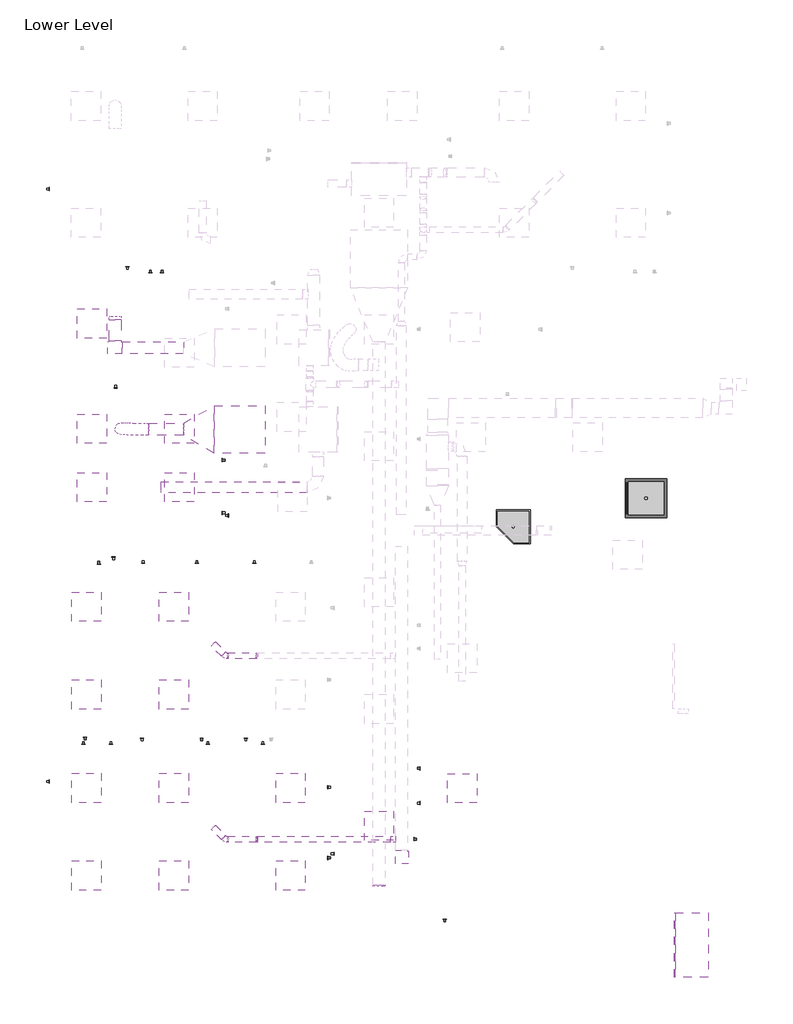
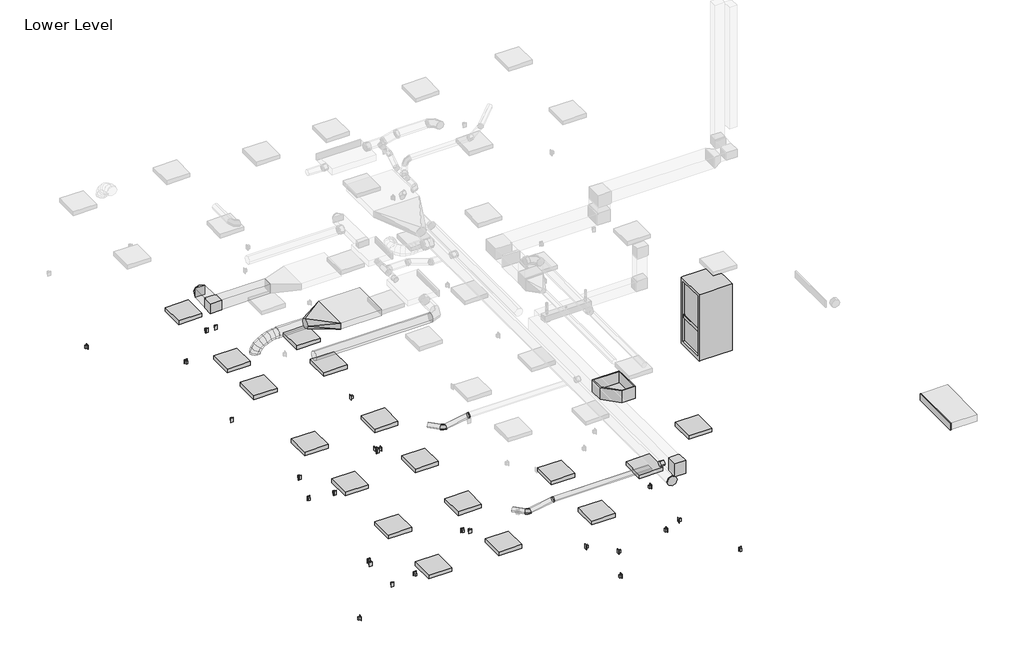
# One storey, part 1 of 4: 23 proxies, 17 light fixtures, 12 duct segments, 11 duct fittings, 6 switching devices, 2 flow terminals.
"""IFC4 building model written with IfcOpenShell, lengths in millimetres."""

from ifc_helpers import new_model, si_unit, point, frame, frame_2d, origin, place, context, project, spatial, polyline, circle_curve, ellipse_curve, trimmed, segment, composite_curve, outline, extrude, transform, mapped, element, save
from ifc_brep_helpers import plane_surface, cylinder_surface, advanced_brep
from components import duplex_receptacle_countertop_10251bba, rectangular_elbow_mitered_standard_7281579c, rectangular_endcap_standard_3ad2bc23, rectangular_tee_standard_e1dfbba3, rectangular_to_round_transition_angle_45_degree_c2b93fa6, rectangular_to_round_transition_angle_60_degree_fd6f6933, round_elbow_1_d_3b39a11e, round_elbow_1_d_92ecc58d, round_endcap_standard_477732a8, round_takeoff_standard_7fe2b2d5, flow_terminal_b3365f74, flow_terminal_3fd0b982, troffer_corner_insert_2x2_3lamp_e67c7f8f

model = new_model("IFC4")

# Units and contexts
model_context = context("Model", 3, world=origin())
ifc_project = project(units=[si_unit("LENGTHUNIT", "METRE", prefix="MILLI")], contexts=[model_context])

# Site, building, storey
site = spatial("IfcSite", under=ifc_project)
building = spatial("IfcBuilding", under=site)
storey = spatial("IfcBuildingStorey", under=building, Name="Lower Level", Elevation=29972.0)

# Proxies
placement = place(None, origin())
duplex_receptacle_countertop_shape = duplex_receptacle_countertop_10251bba(model_context)
element("IfcBuildingElementProxy", 1, Name="Duplex Receptacle : Countertop", ObjectType="Duplex Receptacle : Countertop", at=placement, inside=storey, context=model_context, shape_type="MappedRepresentation", body=[
    mapped(duplex_receptacle_countertop_shape, transform((-19781.0834068, -33.9304995, 31191.2), x_axis=(1.0, 0.0, 0.0), y_axis=(0.0, 0.0, 1.0), z_axis=(0.0, -1.0, 0.0))),
])
element("IfcBuildingElementProxy", 2, Name="Duplex Receptacle : Countertop", ObjectType="Duplex Receptacle : Countertop", at=placement, inside=storey, context=model_context, shape_type="MappedRepresentation", body=[
    mapped(duplex_receptacle_countertop_shape, transform((-17180.480491, -33.9304995, 31191.2), x_axis=(1.0, 0.0, 0.0), y_axis=(0.0, 0.0, 1.0), z_axis=(0.0, -1.0, 0.0))),
])
element("IfcBuildingElementProxy", 3, Name="Duplex Receptacle : Countertop", ObjectType="Duplex Receptacle : Countertop", at=placement, inside=storey, context=model_context, shape_type="MappedRepresentation", body=[
    mapped(duplex_receptacle_countertop_shape, transform((-17312.5285453, 89.8945005, 31191.2), x_axis=(-1.0, 0.0, 0.0), y_axis=(0.0, 0.0, 1.0), z_axis=(0.0, 1.0, 0.0))),
])
element("IfcBuildingElementProxy", 4, Name="Duplex Receptacle : Countertop", ObjectType="Duplex Receptacle : Countertop", at=placement, inside=storey, context=model_context, shape_type="MappedRepresentation", body=[
    mapped(duplex_receptacle_countertop_shape, transform((-19748.0248951, 108.9445005, 31191.2), x_axis=(-1.0, 0.0, 0.0), y_axis=(0.0, 0.0, 1.0), z_axis=(0.0, 1.0, 0.0))),
])
element("IfcBuildingElementProxy", 5, Name="Duplex Receptacle : Countertop", ObjectType="Duplex Receptacle : Countertop", at=placement, inside=storey, context=model_context, shape_type="MappedRepresentation", body=[
    mapped(duplex_receptacle_countertop_shape, transform((-19461.5177943, 3728.4445005, 31191.2), x_axis=(1.0, 0.0, 0.0), y_axis=(0.0, 0.0, 1.0), z_axis=(0.0, -1.0, 0.0))),
])
element("IfcBuildingElementProxy", 6, Name="Duplex Receptacle : Countertop", ObjectType="Duplex Receptacle : Countertop", at=placement, inside=storey, context=model_context, shape_type="MappedRepresentation", body=[
    mapped(duplex_receptacle_countertop_shape, transform((-17411.8900725, 3747.4945005, 31191.2), x_axis=(1.0, 0.0, 0.0), y_axis=(0.0, 0.0, 1.0), z_axis=(0.0, -1.0, 0.0))),
])
element("IfcBuildingElementProxy", 7, Name="Duplex Receptacle : GFCI", ObjectType="Duplex Receptacle : GFCI", at=placement, inside=storey, context=model_context, shape_type="MappedRepresentation", body=[
    mapped(duplex_receptacle_countertop_shape, transform((-18382.2954607, 9811.7445005, 31191.2), x_axis=(1.0, 0.0, 0.0), y_axis=(0.0, 0.0, 1.0), z_axis=(0.0, -1.0, 0.0))),
])
element("IfcBuildingElementProxy", 8, Name="Duplex Receptacle : Standard", ObjectType="Duplex Receptacle : Standard", at=placement, inside=storey, context=model_context, shape_type="MappedRepresentation", body=[
    mapped(duplex_receptacle_countertop_shape, transform((-12749.8454607, -1263.9483179, 30429.2), x_axis=(0.0, 1.0, 0.0), y_axis=(0.0, 0.0, 1.0), z_axis=(1.0, 0.0, 0.0))),
])
element("IfcBuildingElementProxy", 9, Name="Duplex Receptacle : Standard", ObjectType="Duplex Receptacle : Standard", at=placement, inside=storey, context=model_context, shape_type="MappedRepresentation", body=[
    mapped(duplex_receptacle_countertop_shape, transform((-20500.0204607, -814.4593573, 30429.2), x_axis=(0.0, 1.0, 0.0), y_axis=(0.0, 0.0, 1.0), z_axis=(1.0, 0.0, 0.0))),
])
element("IfcBuildingElementProxy", 10, Name="Duplex Receptacle : Standard", ObjectType="Duplex Receptacle : Standard", at=placement, inside=storey, context=model_context, shape_type="MappedRepresentation", body=[
    mapped(duplex_receptacle_countertop_shape, transform((-14673.8954607, -933.3632015, 30429.2), x_axis=(0.0, -1.0, 0.0), y_axis=(0.0, 0.0, 1.0), z_axis=(-1.0, 0.0, 0.0))),
])
element("IfcBuildingElementProxy", 11, Name="Duplex Receptacle : Standard", ObjectType="Duplex Receptacle : Standard", at=placement, inside=storey, context=model_context, shape_type="MappedRepresentation", body=[
    mapped(duplex_receptacle_countertop_shape, transform((-19208.069205, -33.9304995, 30429.2), x_axis=(1.0, 0.0, 0.0), y_axis=(0.0, 0.0, 1.0), z_axis=(0.0, -1.0, 0.0))),
])
element("IfcBuildingElementProxy", 12, Name="Duplex Receptacle : Standard", ObjectType="Duplex Receptacle : Standard", at=placement, inside=storey, context=model_context, shape_type="MappedRepresentation", body=[
    mapped(duplex_receptacle_countertop_shape, transform((-16034.4520874, -33.9304995, 30429.2), x_axis=(1.0, 0.0, 0.0), y_axis=(0.0, 0.0, 1.0), z_axis=(0.0, -1.0, 0.0))),
])
element("IfcBuildingElementProxy", 13, Name="Duplex Receptacle : Standard", ObjectType="Duplex Receptacle : Standard", at=placement, inside=storey, context=model_context, shape_type="MappedRepresentation", body=[
    mapped(duplex_receptacle_countertop_shape, transform((-18535.8794683, 3747.4945005, 30429.2), x_axis=(1.0, 0.0, 0.0), y_axis=(0.0, 0.0, 1.0), z_axis=(0.0, -1.0, 0.0))),
])
element("IfcBuildingElementProxy", 14, Name="Duplex Receptacle : Standard", ObjectType="Duplex Receptacle : Standard", at=placement, inside=storey, context=model_context, shape_type="MappedRepresentation", body=[
    mapped(duplex_receptacle_countertop_shape, transform((-16210.7641495, 3747.4945005, 30429.2), x_axis=(1.0, 0.0, 0.0), y_axis=(0.0, 0.0, 1.0), z_axis=(0.0, -1.0, 0.0))),
])
element("IfcBuildingElementProxy", 15, Name="Duplex Receptacle : Standard", ObjectType="Duplex Receptacle : Standard", at=placement, inside=storey, context=model_context, shape_type="MappedRepresentation", body=[
    mapped(duplex_receptacle_countertop_shape, transform((-18557.7324838, 89.8945005, 30429.2), x_axis=(-1.0, 0.0, 0.0), y_axis=(0.0, 0.0, 1.0), z_axis=(0.0, 1.0, 0.0))),
])
element("IfcBuildingElementProxy", 16, Name="Duplex Receptacle : Standard", ObjectType="Duplex Receptacle : Standard", at=placement, inside=storey, context=model_context, shape_type="MappedRepresentation", body=[
    mapped(duplex_receptacle_countertop_shape, transform((-16386.8902194, 89.8945005, 30429.2), x_axis=(-1.0, 0.0, 0.0), y_axis=(0.0, 0.0, 1.0), z_axis=(0.0, 1.0, 0.0))),
])
element("IfcBuildingElementProxy", 17, Name="Duplex Receptacle : Standard", ObjectType="Duplex Receptacle : Standard", at=placement, inside=storey, context=model_context, shape_type="MappedRepresentation", body=[
    mapped(duplex_receptacle_countertop_shape, transform((-16880.5204607, 4796.7788164, 30429.2), x_axis=(0.0, -1.0, 0.0), y_axis=(0.0, 0.0, 1.0), z_axis=(-1.0, 0.0, 0.0))),
])
element("IfcBuildingElementProxy", 18, Name="Duplex Receptacle : Standard", ObjectType="Duplex Receptacle : Standard", at=placement, inside=storey, context=model_context, shape_type="MappedRepresentation", body=[
    mapped(duplex_receptacle_countertop_shape, transform((-19152.7856934, 3871.3195005, 30429.2), x_axis=(-1.0, 0.0, 0.0), y_axis=(0.0, 0.0, 1.0), z_axis=(0.0, 1.0, 0.0))),
])
element("IfcBuildingElementProxy", 19, Name="Duplex Receptacle : Standard", ObjectType="Duplex Receptacle : Standard", at=placement, inside=storey, context=model_context, shape_type="MappedRepresentation", body=[
    mapped(duplex_receptacle_countertop_shape, transform((-19108.7076778, 7408.2695005, 30429.2), x_axis=(1.0, 0.0, 0.0), y_axis=(0.0, 0.0, 1.0), z_axis=(0.0, -1.0, 0.0))),
])
element("IfcBuildingElementProxy", 20, Name="Duplex Receptacle : Standard", ObjectType="Duplex Receptacle : Standard", at=placement, inside=storey, context=model_context, shape_type="MappedRepresentation", body=[
    mapped(duplex_receptacle_countertop_shape, transform((-16756.6954607, 4741.681297, 30429.2), x_axis=(0.0, 1.0, 0.0), y_axis=(0.0, 0.0, 1.0), z_axis=(1.0, 0.0, 0.0))),
])
element("IfcBuildingElementProxy", 21, Name="Duplex Receptacle : Standard", ObjectType="Duplex Receptacle : Standard", at=placement, inside=storey, context=model_context, shape_type="MappedRepresentation", body=[
    mapped(duplex_receptacle_countertop_shape, transform((-20500.0204607, 11561.2553968, 30429.2), x_axis=(0.0, 1.0, 0.0), y_axis=(0.0, 0.0, 1.0), z_axis=(1.0, 0.0, 0.0))),
])
element("IfcBuildingElementProxy", 22, Name="Duplex Receptacle : Standard", ObjectType="Duplex Receptacle : Standard", at=placement, inside=storey, context=model_context, shape_type="MappedRepresentation", body=[
    mapped(duplex_receptacle_countertop_shape, transform((-18861.9549075, 9935.5695005, 30429.2), x_axis=(-1.0, 0.0, 0.0), y_axis=(0.0, 0.0, 1.0), z_axis=(0.0, 1.0, 0.0))),
])
element("IfcBuildingElementProxy", 23, Name="Duplex Receptacle : Standard", ObjectType="Duplex Receptacle : Standard", at=placement, inside=storey, context=model_context, shape_type="MappedRepresentation", body=[
    mapped(duplex_receptacle_countertop_shape, transform((-14550.0704607, -2323.3194927, 30429.2), x_axis=(0.0, 1.0, 0.0), y_axis=(0.0, 0.0, 1.0), z_axis=(1.0, 0.0, 0.0))),
])

# Duct fittings
rectangular_elbow_mitered_standard_shape = rectangular_elbow_mitered_standard_7281579c(model_context)
element("IfcDuctFitting", 24, ObjectType="Rectangular Elbow - Mitered : Standard", at=placement, inside=storey, context=model_context, shape_type="MappedRepresentation", body=[
    mapped(rectangular_elbow_mitered_standard_shape, transform((-13138.544811, -2399.3054995, 33020.0), x_axis=(0.0, -1.0, 0.0), y_axis=(1.0, 0.0, 0.0), z_axis=(0.0, 0.0, 1.0))),
])
rectangular_endcap_standard_shape = rectangular_endcap_standard_3ad2bc23(model_context)
element("IfcDuctFitting", 25, ObjectType="Rectangular Endcap : Standard", at=placement, inside=storey, context=model_context, shape_type="MappedRepresentation", body=[
    mapped(rectangular_endcap_standard_shape, transform((-7413.4450089, -4228.1054995, 33617.69375), x_axis=(-1.0, 0.0, 0.0), y_axis=(0.0, -1.0, 0.0), z_axis=(0.0, 0.0, 1.0))),
])
rectangular_tee_standard_shape = rectangular_tee_standard_e1dfbba3(model_context)
element("IfcDuctFitting", 26, ObjectType="Rectangular Tee : Standard", at=placement, inside=storey, context=model_context, shape_type="MappedRepresentation", body=[
    mapped(rectangular_tee_standard_shape, transform((-19120.4829607, 8243.4520797, 33126.0036612), x_axis=(-0.9999999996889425, 0.0, 2.4942236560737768e-05), y_axis=(0.0, -1.0000000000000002, 0.0), z_axis=(2.4942236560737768e-05, 0.0, 0.9999999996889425))),
])
rectangular_to_round_transition_angle_45_degree_shape = rectangular_to_round_transition_angle_45_degree_c2b93fa6(model_context)
element("IfcDuctFitting", 27, ObjectType="Rectangular to Round Transition - Angle : 45 Degree", at=placement, inside=storey, context=model_context, shape_type="MappedRepresentation", body=[
    mapped(rectangular_to_round_transition_angle_45_degree_shape, transform((-19120.4829607, 8834.9338087, 33126.0036612), x_axis=(0.0, 1.0, 0.0), y_axis=(-1.0, 0.0, 0.0), z_axis=(0.0, 0.0, 1.0))),
])
rectangular_to_round_transition_angle_60_degree_shape = rectangular_to_round_transition_angle_60_degree_fd6f6933(model_context)
element("IfcDuctFitting", 28, ObjectType="Rectangular to Round Transition - Angle : 60 Degree", at=placement, inside=storey, context=model_context, shape_type="MappedRepresentation", body=[
    mapped(rectangular_to_round_transition_angle_60_degree_shape, transform((-17051.2248289, 6541.2842307, 33125.9381059), x_axis=(-0.9999999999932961, 0.0, 3.661651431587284e-06), y_axis=(0.0, -1.0, 0.0), z_axis=(3.661651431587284e-06, 0.0, 0.9999999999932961))),
])
round_elbow_1_d_shape = round_elbow_1_d_3b39a11e(model_context)
element("IfcDuctFitting", 29, ObjectType="Round Elbow : 1 D", at=placement, inside=storey, context=model_context, shape_type="MappedRepresentation", body=[
    mapped(round_elbow_1_d_shape, transform((-16158.3431706, -2023.2439528, 32918.4), x_axis=(-1.0, 0.0, 0.0), y_axis=(0.0, 0.0, -1.0), z_axis=(0.0, -1.0, 0.0))),
])
element("IfcDuctFitting", 30, ObjectType="Round Elbow : 1 D", at=placement, inside=storey, context=model_context, shape_type="MappedRepresentation", body=[
    mapped(round_elbow_1_d_shape, transform((-16158.3431706, 1810.3913908, 32918.4), x_axis=(-1.0, 0.0, 0.0), y_axis=(0.0, 0.0, -1.0), z_axis=(0.0, -1.0, 0.0))),
])
round_elbow_1_d_2_shape = round_elbow_1_d_92ecc58d(model_context)
element("IfcDuctFitting", 31, ObjectType="Round Elbow : 1 D", at=placement, inside=storey, context=model_context, shape_type="MappedRepresentation", body=[
    mapped(round_elbow_1_d_2_shape, transform((-16816.8445074, -2023.2439528, 32809.259375), x_axis=(0.7071067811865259, -0.7071067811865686, -2.8639103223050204e-08), y_axis=(0.6884479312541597, 0.6884479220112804, 0.22820802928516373), z_axis=(-0.1613674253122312, -0.16136746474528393, 0.9736123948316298))),
])
element("IfcDuctFitting", 32, ObjectType="Round Elbow : 1 D", at=placement, inside=storey, context=model_context, shape_type="MappedRepresentation", body=[
    mapped(round_elbow_1_d_2_shape, transform((-16816.8445074, 1810.3913908, 32809.259375), x_axis=(0.7071067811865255, -0.707106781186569, -2.8639103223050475e-08), y_axis=(0.6884479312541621, 0.6884479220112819, 0.22820802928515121), z_axis=(-0.16136742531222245, -0.161367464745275, 0.9736123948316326))),
])
round_endcap_standard_shape = round_endcap_standard_477732a8(model_context)
element("IfcDuctFitting", 33, ObjectType="Round Endcap : Standard", at=placement, inside=storey, context=model_context, shape_type="MappedRepresentation", body=[
    mapped(round_endcap_standard_shape, transform((-13605.5079607, -2974.1916692, 33125.9395828), x_axis=(0.0, -0.9999999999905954, 4.3369790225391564e-06), y_axis=(1.0000000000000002, 0.0, 0.0), z_axis=(0.0, 4.3369790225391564e-06, 0.9999999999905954))),
])
round_takeoff_standard_shape = round_takeoff_standard_7fe2b2d5(model_context)
element("IfcDuctFitting", 34, ObjectType="Round Takeoff : Standard", at=placement, inside=storey, context=model_context, shape_type="MappedRepresentation", body=[
    mapped(round_takeoff_standard_shape, transform((-13265.544811, -2023.2439528, 32918.4), x_axis=(-1.0, 0.0, 0.0), y_axis=(0.0, 1.0, 0.0), z_axis=(0.0, 0.0, -1.0))),
])

# Duct segments
element("IfcDuctSegment", 35, ObjectType="Flex - Round", at=placement, inside=storey, context=model_context, shape_type="AdvancedBrep", body=[
    advanced_brep(
    [(-18422.8248284, 6414.2842307, 33125.9381059), (-18422.8228218, 6541.2842307, 32998.9381059), (-18422.8248284, 6668.2842307, 33125.9381059), (-18422.826835, 6541.2842307, 33252.9381059), (-18433.152275, 6414.2842307, 33125.9379427), (-18427.213179, 6541.2842307, 32998.9380365), (-18432.1738135, 6668.2842307, 33125.9379582), (-18438.1129095, 6541.2842307, 33252.9378644), (-18998.2468091, 6427.2342279, 32769.175), (-19122.0307333, 6557.370849, 32769.175), (-18991.8941123, 6681.1547731, 32769.175), (-18868.1101881, 6551.0181521, 32769.175), (-18526.8562618, 6415.0075083, 33117.8823605), (-18506.4861488, 6541.8961189, 32992.1230658), (-18523.77087, 6668.9912454, 33118.0635054), (-18544.140983, 6542.1026349, 33243.8228001), (-18637.0590968, 6416.8674274, 33094.2470375), (-18599.9246736, 6543.4731028, 32972.0832029), (-18632.1256758, 6670.8199749, 33094.8245313), (-18669.260099, 6544.2142995, 33216.9883659), (-18745.4744577, 6419.4025492, 33055.8194408), (-18691.0924105, 6545.6049162, 32939.7689901), (-18739.4042775, 6673.3285154, 33056.7998564), (-18793.7863247, 6547.1261484, 33172.850307), (-18843.9578998, 6422.158337, 33003.3326321), (-18769.8918529, 6547.8099015, 32897.7727808), (-18837.3072758, 6676.068061, 33004.6223956), (-18911.3733226, 6550.4164965, 33110.182247), (-18924.3293294, 6424.6818602, 32937.5333655), (-18826.6789675, 6549.5929182, 32851.2817514), (-18917.57092, 6678.5882, 32938.9113718), (-19015.2212819, 6553.677142, 33025.1629859), (-18978.4517799, 6426.5228686, 32859.1793234), (-18859.8184682, 6550.7201787, 32803.305102), (-18971.8883329, 6680.4358402, 32860.2750791), (-19090.5216446, 6556.2385301, 32916.1493004), (-18998.2468091, 6427.2342279, 32796.2388616), (-18868.1101881, 6551.0181521, 32776.940671), (-18991.8941123, 6681.1547731, 32796.6645143), (-19122.0307333, 6557.370849, 32815.9627049)],
    [
        (0, 1, circle_curve(frame((-18422.8248284, 6541.2842307, 33125.9381059), z_axis=(0.9999999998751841, 0.0, 1.5799743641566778e-05), x_axis=(0.0, -1.0, 0.0)), 127.0)),
        (1, 2, circle_curve(frame((-18422.8248284, 6541.2842307, 33125.9381059), z_axis=(0.9999999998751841, 0.0, 1.5799743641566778e-05), x_axis=(0.0, -1.0, 0.0)), 127.0)),
        (2, 3, circle_curve(frame((-18422.8248284, 6541.2842307, 33125.9381059), z_axis=(0.9999999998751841, 0.0, 1.5799743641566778e-05), x_axis=(0.0, -1.0, 0.0)), 127.0)),
        (3, 0, circle_curve(frame((-18422.8248284, 6541.2842307, 33125.9381059), z_axis=(0.9999999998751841, 0.0, 1.5799743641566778e-05), x_axis=(0.0, -1.0, 0.0)), 127.0)),
        (0, 4),
        (4, 5, ellipse_curve(frame((-18432.6630442, 6541.2842307, 33125.9379505), z_axis=(0.999073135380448, -0.003848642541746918, 0.04287257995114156), x_axis=(0.0430449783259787, 0.08935961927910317, -0.9950688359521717)), 127.1177348, 127.0)),
        (5, 1),
        (5, 6, ellipse_curve(frame((-18432.6630442, 6541.2842307, 33125.9379505), z_axis=(0.999073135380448, -0.003848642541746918, 0.04287257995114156), x_axis=(0.0430449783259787, 0.08935961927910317, -0.9950688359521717)), 127.1177348, 127.0)),
        (6, 2),
        (6, 7, ellipse_curve(frame((-18432.6630442, 6541.2842307, 33125.9379505), z_axis=(0.999073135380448, -0.003848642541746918, 0.04287257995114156), x_axis=(0.0430449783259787, 0.08935961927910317, -0.9950688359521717)), 127.1177348, 127.0)),
        (7, 3),
        (7, 4, ellipse_curve(frame((-18432.6630442, 6541.2842307, 33125.9379505), z_axis=(0.999073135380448, -0.003848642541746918, 0.04287257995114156), x_axis=(0.0430449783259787, 0.08935961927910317, -0.9950688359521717)), 127.1177348, 127.0)),
        (8, 9, circle_curve(frame((-18995.0704607, 6554.1945005, 32769.175), z_axis=(0.0, 0.0, -1.0), x_axis=(-0.02501061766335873, -0.9996871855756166, 0.0)), 127.0)),
        (9, 10, circle_curve(frame((-18995.0704607, 6554.1945005, 32769.175), z_axis=(0.0, 0.0, -1.0), x_axis=(-0.02501061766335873, -0.9996871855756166, 0.0)), 127.0)),
        (10, 11, circle_curve(frame((-18995.0704607, 6554.1945005, 32769.175), z_axis=(0.0, 0.0, -1.0), x_axis=(-0.02501061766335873, -0.9996871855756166, 0.0)), 127.0)),
        (11, 8, circle_curve(frame((-18995.0704607, 6554.1945005, 32769.175), z_axis=(0.0, 0.0, -1.0), x_axis=(-0.02501061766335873, -0.9996871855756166, 0.0)), 127.0)),
        (4, 12),
        (12, 13, ellipse_curve(frame((-18525.3135659, 6541.9993769, 33117.9729329), z_axis=(0.9889199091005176, -0.012118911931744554, 0.14795453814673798), x_axis=(0.1484415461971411, 0.0700677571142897, -0.9864358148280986)), 127.251696, 127.0)),
        (13, 5),
        (13, 14, ellipse_curve(frame((-18525.3135659, 6541.9993769, 33117.9729329), z_axis=(0.9889199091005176, -0.012118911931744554, 0.14795453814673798), x_axis=(0.1484415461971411, 0.0700677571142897, -0.9864358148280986)), 127.251696, 127.0)),
        (14, 6),
        (14, 15, ellipse_curve(frame((-18525.3135659, 6541.9993769, 33117.9729329), z_axis=(0.9889199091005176, -0.012118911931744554, 0.14795453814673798), x_axis=(0.1484415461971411, 0.0700677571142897, -0.9864358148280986)), 127.251696, 127.0)),
        (15, 7),
        (15, 12, ellipse_curve(frame((-18525.3135659, 6541.9993769, 33117.9729329), z_axis=(0.9889199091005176, -0.012118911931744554, 0.14795453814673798), x_axis=(0.1484415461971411, 0.0700677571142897, -0.9864358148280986)), 127.251696, 127.0)),
        (12, 16),
        (16, 17, ellipse_curve(frame((-18634.5923863, 6543.8437011, 33094.5357844), z_axis=(0.9619880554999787, -0.01930756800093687, 0.27240814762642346), x_axis=(0.27300431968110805, 0.042784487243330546, -0.9610609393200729)), 127.2665098, 127.0)),
        (17, 13),
        (17, 18, ellipse_curve(frame((-18634.5923863, 6543.8437011, 33094.5357844), z_axis=(0.9619880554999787, -0.01930756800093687, 0.27240814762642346), x_axis=(0.27300431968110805, 0.042784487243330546, -0.9610609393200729)), 127.2665098, 127.0)),
        (18, 14),
        (18, 19, ellipse_curve(frame((-18634.5923863, 6543.8437011, 33094.5357844), z_axis=(0.9619880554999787, -0.01930756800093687, 0.27240814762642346), x_axis=(0.27300431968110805, 0.042784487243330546, -0.9610609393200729)), 127.2665098, 127.0)),
        (19, 15),
        (19, 16, ellipse_curve(frame((-18634.5923863, 6543.8437011, 33094.5357844), z_axis=(0.9619880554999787, -0.01930756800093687, 0.27240814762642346), x_axis=(0.27300431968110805, 0.042784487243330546, -0.9610609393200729)), 127.2665098, 127.0)),
        (16, 20),
        (20, 21, ellipse_curve(frame((-18742.4393676, 6546.3655323, 33056.3096486), z_axis=(0.9148074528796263, -0.023425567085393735, 0.40321032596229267), x_axis=(0.4036389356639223, 0.0178143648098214, -0.914744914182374)), 127.3533068, 127.0)),
        (21, 17),
        (21, 22, ellipse_curve(frame((-18742.4393676, 6546.3655323, 33056.3096486), z_axis=(0.9148074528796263, -0.023425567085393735, 0.40321032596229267), x_axis=(0.4036389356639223, 0.0178143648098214, -0.914744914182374)), 127.3533068, 127.0)),
        (22, 18),
        (22, 23, ellipse_curve(frame((-18742.4393676, 6546.3655323, 33056.3096486), z_axis=(0.9148074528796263, -0.023425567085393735, 0.40321032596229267), x_axis=(0.4036389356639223, 0.0178143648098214, -0.914744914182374)), 127.3533068, 127.0)),
        (23, 19),
        (23, 20, ellipse_curve(frame((-18742.4393676, 6546.3655323, 33056.3096486), z_axis=(0.9148074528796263, -0.023425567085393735, 0.40321032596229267), x_axis=(0.4036389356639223, 0.0178143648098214, -0.914744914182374)), 127.3533068, 127.0)),
        (20, 24),
        (24, 25, ellipse_curve(frame((-18840.6325878, 6549.113199, 33003.9775139), z_axis=(0.8318846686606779, -0.02460559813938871, 0.5544027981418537), x_axis=(0.5545278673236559, -0.0020352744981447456, -0.8321626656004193)), 127.6142862, 127.0)),
        (25, 21),
        (25, 26, ellipse_curve(frame((-18840.6325878, 6549.113199, 33003.9775139), z_axis=(0.8318846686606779, -0.02460559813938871, 0.5544027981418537), x_axis=(0.5545278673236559, -0.0020352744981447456, -0.8321626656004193)), 127.6142862, 127.0)),
        (26, 22),
        (26, 27, ellipse_curve(frame((-18840.6325878, 6549.113199, 33003.9775139), z_axis=(0.8318846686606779, -0.02460559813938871, 0.5544027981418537), x_axis=(0.5545278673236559, -0.0020352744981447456, -0.8321626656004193)), 127.6142862, 127.0)),
        (27, 23),
        (27, 24, ellipse_curve(frame((-18840.6325878, 6549.113199, 33003.9775139), z_axis=(0.8318846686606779, -0.02460559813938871, 0.5544027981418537), x_axis=(0.5545278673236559, -0.0020352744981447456, -0.8321626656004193)), 127.6142862, 127.0)),
        (24, 28),
        (28, 29, ellipse_curve(frame((-18920.9501247, 6551.6350301, 32938.2223686), z_axis=(0.6775254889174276, -0.022024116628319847, 0.7351694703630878), x_axis=(0.7349668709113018, -0.017752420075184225, -0.6778705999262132)), 128.2571375, 127.0)),
        (29, 25),
        (29, 30, ellipse_curve(frame((-18920.9501247, 6551.6350301, 32938.2223686), z_axis=(0.6775254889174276, -0.022024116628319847, 0.7351694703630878), x_axis=(0.7349668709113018, -0.017752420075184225, -0.6778705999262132)), 128.2571375, 127.0)),
        (30, 26),
        (30, 31, ellipse_curve(frame((-18920.9501247, 6551.6350301, 32938.2223686), z_axis=(0.6775254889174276, -0.022024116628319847, 0.7351694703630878), x_axis=(0.7349668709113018, -0.017752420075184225, -0.6778705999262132)), 128.2571375, 127.0)),
        (31, 27),
        (31, 28, ellipse_curve(frame((-18920.9501247, 6551.6350301, 32938.2223686), z_axis=(0.6775254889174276, -0.022024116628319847, 0.7351694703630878), x_axis=(0.7349668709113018, -0.017752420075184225, -0.6778705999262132)), 128.2571375, 127.0)),
        (28, 32),
        (32, 33, ellipse_curve(frame((-18975.1700564, 6553.4793544, 32859.7272012), z_axis=(0.4390412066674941, -0.015225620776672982, 0.8983379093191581), x_axis=(0.8978827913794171, -0.028613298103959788, -0.43930373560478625)), 128.4409374, 127.0)),
        (33, 29),
        (33, 34, ellipse_curve(frame((-18975.1700564, 6553.4793544, 32859.7272012), z_axis=(0.4390412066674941, -0.015225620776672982, 0.8983379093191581), x_axis=(0.8978827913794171, -0.028613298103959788, -0.43930373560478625)), 128.4409374, 127.0)),
        (34, 30),
        (34, 35, ellipse_curve(frame((-18975.1700564, 6553.4793544, 32859.7272012), z_axis=(0.4390412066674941, -0.015225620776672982, 0.8983379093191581), x_axis=(0.8978827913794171, -0.028613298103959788, -0.43930373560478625)), 128.4409374, 127.0)),
        (35, 31),
        (35, 32, ellipse_curve(frame((-18975.1700564, 6553.4793544, 32859.7272012), z_axis=(0.4390412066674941, -0.015225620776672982, 0.8983379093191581), x_axis=(0.8978827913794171, -0.028613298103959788, -0.43930373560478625)), 128.4409374, 127.0)),
        (32, 36),
        (36, 37, ellipse_curve(frame((-18995.0704607, 6554.1945005, 32796.4516879), z_axis=(0.1517593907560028, -0.005453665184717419, 0.9884024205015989), x_axis=(0.9877648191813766, -0.03549657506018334, -0.15185735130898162)), 128.490175, 127.0)),
        (37, 33),
        (37, 38, ellipse_curve(frame((-18995.0704607, 6554.1945005, 32796.4516879), z_axis=(0.1517593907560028, -0.005453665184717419, 0.9884024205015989), x_axis=(0.9877648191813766, -0.03549657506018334, -0.15185735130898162)), 128.490175, 127.0)),
        (38, 34),
        (38, 39, ellipse_curve(frame((-18995.0704607, 6554.1945005, 32796.4516879), z_axis=(0.1517593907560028, -0.005453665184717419, 0.9884024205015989), x_axis=(0.9877648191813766, -0.03549657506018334, -0.15185735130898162)), 128.490175, 127.0)),
        (39, 35),
        (39, 36, ellipse_curve(frame((-18995.0704607, 6554.1945005, 32796.4516879), z_axis=(0.1517593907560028, -0.005453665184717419, 0.9884024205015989), x_axis=(0.9877648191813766, -0.03549657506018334, -0.15185735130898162)), 128.490175, 127.0)),
        (36, 8),
        (11, 37),
        (10, 38),
        (9, 39),
    ],
    [
        plane_surface(frame((-18422.8228218, 6541.2842307, 32998.9381059), z_axis=(0.9999999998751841, 0.0, 1.5799743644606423e-05), x_axis=(0.0, -1.0, 0.0))),
        cylinder_surface(frame((-18422.8248284, 6541.2842307, 33125.9381059), z_axis=(0.9999999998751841, 0.0, 1.5799743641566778e-05), x_axis=(0.0, -1.0, 0.0)), 127.0),
        plane_surface(frame((-18995.0704607, 6427.1945005, 32769.175), z_axis=(0.0, 0.0, -1.0), x_axis=(-1.0, 0.0, 0.0))),
        cylinder_surface(frame((-18432.6630442, 6541.2842307, 33125.9379505), z_axis=(0.996295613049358, -0.0076901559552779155, 0.08564994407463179), x_axis=(-0.00769015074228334, -0.9999703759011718, -0.0003300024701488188)), 127.0),
        cylinder_surface(frame((-18525.3135659, 6541.9993769, 33117.9729329), z_axis=(0.9776321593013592, -0.016499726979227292, 0.2096738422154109), x_axis=(-0.016520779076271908, -0.9998621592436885, -0.0016511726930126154)), 127.0),
        cylinder_surface(frame((-18634.5923863, 6543.8437011, 33094.5357844), z_axis=(0.9423149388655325, -0.022034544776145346, 0.3340015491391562), x_axis=(-0.02222021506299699, -0.9997477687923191, -0.0032650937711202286)), 127.0),
        cylinder_surface(frame((-18742.4393676, 6546.3655323, 33056.3096486), z_axis=(0.8822242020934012, -0.02468661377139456, 0.47018190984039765), x_axis=(-0.025469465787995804, -0.9996645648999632, -0.004697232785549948)), 127.0),
        cylinder_surface(frame((-18840.6325878, 6549.113199, 33003.9775139), z_axis=(0.7735363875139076, -0.024287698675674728, 0.6332863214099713), x_axis=(-0.026809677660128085, -0.9996249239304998, -0.005590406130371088)), 127.0),
        cylinder_surface(frame((-18920.9501247, 6551.6350301, 32938.2223686), z_axis=(0.5682327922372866, -0.019328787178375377, 0.8226408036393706), x_axis=(-0.026459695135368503, -0.9996363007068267, -0.005210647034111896)), 127.0),
        cylinder_surface(frame((-18975.1700564, 6553.4793544, 32859.7272012), z_axis=(0.2999986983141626, -0.010780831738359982, 0.9538786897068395), x_axis=(-0.025513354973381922, -0.999669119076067, -0.0032743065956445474)), 127.0),
        cylinder_surface(frame((-18995.0704607, 6554.1945005, 32796.4516879), z_axis=(0.0, 0.0, 1.0000000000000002), x_axis=(-0.02501061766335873, -0.9996871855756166, 0.0)), 127.0),
    ],
    [
        (0, [[1, 2, 3, 4]]),
        (1, [[-1, 5, 6, 7]]),
        (1, [[-2, -7, 8, 9]]),
        (1, [[-3, -9, 10, 11]]),
        (1, [[-4, -11, 12, -5]]),
        (2, [[13, 14, 15, 16]]),
        (3, [[-6, 17, 18, 19]]),
        (3, [[-8, -19, 20, 21]]),
        (3, [[-10, -21, 22, 23]]),
        (3, [[-12, -23, 24, -17]]),
        (4, [[-18, 25, 26, 27]]),
        (4, [[-20, -27, 28, 29]]),
        (4, [[-22, -29, 30, 31]]),
        (4, [[-24, -31, 32, -25]]),
        (5, [[-26, 33, 34, 35]]),
        (5, [[-28, -35, 36, 37]]),
        (5, [[-30, -37, 38, 39]]),
        (5, [[-32, -39, 40, -33]]),
        (6, [[-34, 41, 42, 43]]),
        (6, [[-36, -43, 44, 45]]),
        (6, [[-38, -45, 46, 47]]),
        (6, [[-40, -47, 48, -41]]),
        (7, [[-42, 49, 50, 51]]),
        (7, [[-44, -51, 52, 53]]),
        (7, [[-46, -53, 54, 55]]),
        (7, [[-48, -55, 56, -49]]),
        (8, [[-50, 57, 58, 59]]),
        (8, [[-52, -59, 60, 61]]),
        (8, [[-54, -61, 62, 63]]),
        (8, [[-56, -63, 64, -57]]),
        (9, [[-58, 65, 66, 67]]),
        (9, [[-60, -67, 68, 69]]),
        (9, [[-62, -69, 70, 71]]),
        (9, [[-64, -71, 72, -65]]),
        (10, [[-66, 73, -16, 74]]),
        (10, [[-68, -74, -15, 75]]),
        (10, [[-70, -75, -14, 76]]),
        (10, [[-72, -76, -13, -73]]),
    ],
),
])
element("IfcDuctSegment", 36, ObjectType="Mitered Elbows / Taps", at=placement, inside=storey, context=model_context, shape_type="SweptSolid", body=[
    extrude(outline(polyline([(0.0, -990.6), (0.0, 0.0), (1066.7996217, 0.0), (1066.7996217, -990.6), (0.0, -990.6)])), frame((-17051.2251383, 7036.5842307, 33041.4381059), z_axis=(3.661651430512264e-06, 0.0, 0.9999999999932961), x_axis=(0.9999999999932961, 0.0, -3.661651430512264e-06)), (0.0, 0.0, 1.0), 169.0),
])
element("IfcDuctSegment", 37, ObjectType="Mitered Elbows / Taps", at=placement, inside=storey, context=model_context, shape_type="SweptSolid", body=[
    extrude(outline(polyline([(-6725.0018914, -3550.2429995), (-6725.0018914, -4905.9679995), (-7413.4450089, -4905.9679995), (-7413.4450089, -3550.2429995), (-6725.0018914, -3550.2429995)])), frame((0.0, 0.0, 33528.0), z_axis=(0.0, 0.0, 1.0), x_axis=(1.0, 0.0, 0.0)), (0.0, 0.0, 1.0), 179.3875),
])
element("IfcDuctSegment", 38, ObjectType="Mitered Elbows / Tees", at=placement, inside=storey, context=model_context, shape_type="SweptSolid", body=[
    extrude(outline(polyline([(0.0, -254.0), (0.0, 0.0), (1276.7988832, 0.0), (1276.7988832, -254.0), (0.0, -254.0)])), frame((-17691.2872456, 8116.4520797, 32998.9680138), z_axis=(2.494223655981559e-05, 0.0, 0.9999999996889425), x_axis=(-0.9999999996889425, 0.0, 2.494223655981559e-05)), (0.0, 0.0, 1.0), 254.0),
])
element("IfcDuctSegment", 39, ObjectType="Radius Elbows / Taps", at=placement, inside=storey, context=model_context, shape_type="SweptSolid", body=[
    extrude(outline(polyline([(-18993.4829607, 8395.8520797), (-19247.4829607, 8395.8520797), (-19247.4829607, 8834.9338087), (-18993.4829607, 8834.9338087), (-18993.4829607, 8395.8520797)])), frame((0.0, 0.0, 32999.0036612), z_axis=(0.0, 0.0, 1.0), x_axis=(1.0, 0.0, 0.0)), (0.0, 0.0, 1.0), 254.0),
])
element("IfcDuctSegment", 40, ObjectType="Taps / Short Radius", at=placement, inside=storey, context=model_context, shape_type="SweptSolid", body=[
    extrude(outline(composite_curve([segment(trimmed(circle_curve(frame_2d((0.0, -127.0)), 127.0), [point((-127.0, -127.0))], [point((0.0, 0.0))], False, "CARTESIAN"), True, "CONTINUOUS"), segment(trimmed(circle_curve(frame_2d((0.0, -127.0)), 127.0), [point((0.0, 0.0))], [point((127.0, -127.0))], False, "CARTESIAN"), True, "CONTINUOUS"), segment(trimmed(circle_curve(frame_2d((0.0, -127.0)), 127.0), [point((127.0, -127.0))], [point((0.0, -254.0))], False, "CARTESIAN"), True, "CONTINUOUS"), segment(trimmed(circle_curve(frame_2d((0.0, -127.0)), 127.0), [point((0.0, -254.0))], [point((-127.0, -127.0))], False, "CARTESIAN"), True, "CONTINUOUS")], self_intersect=False)), frame((-18422.8228218, 6541.2842307, 32998.9381059), z_axis=(0.9999999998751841, 0.0, 1.5799743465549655e-05), x_axis=(0.0, -1.0, 0.0)), (0.0, 0.0, 1.0), 733.6856872),
])
element("IfcDuctSegment", 41, ObjectType="Taps / Short Radius", at=placement, inside=storey, context=model_context, shape_type="SweptSolid", body=[
    extrude(outline(composite_curve([segment(trimmed(circle_curve(frame_2d((5334.9945005, 33121.6)), 114.3), [point((5220.6945005, 33121.6))], [point((5334.9945005, 33235.9))], False, "CARTESIAN"), True, "CONTINUOUS"), segment(trimmed(circle_curve(frame_2d((5334.9945005, 33121.6)), 114.3), [point((5334.9945005, 33235.9))], [point((5449.2945005, 33121.6))], False, "CARTESIAN"), True, "CONTINUOUS"), segment(trimmed(circle_curve(frame_2d((5334.9945005, 33121.6)), 114.3), [point((5449.2945005, 33121.6))], [point((5334.9945005, 33007.3))], False, "CARTESIAN"), True, "CONTINUOUS"), segment(trimmed(circle_curve(frame_2d((5334.9945005, 33121.6)), 114.3), [point((5334.9945005, 33007.3))], [point((5220.6945005, 33121.6))], False, "CARTESIAN"), True, "CONTINUOUS")], self_intersect=False)), frame((-18156.8704607, 0.0, 0.0), z_axis=(1.0, 0.0, 0.0), x_axis=(0.0, 1.0, 0.0)), (0.0, 0.0, 1.0), 3047.1367579),
])
element("IfcDuctSegment", 42, ObjectType="Taps / Short Radius", at=placement, inside=storey, context=model_context, shape_type="SweptSolid", body=[
    extrude(outline(composite_curve([segment(trimmed(circle_curve(frame_2d((-2023.2439528, 32918.4)), 63.5), [point((-2086.7439528, 32918.4))], [point((-2023.2439528, 32981.9))], False, "CARTESIAN"), True, "CONTINUOUS"), segment(trimmed(circle_curve(frame_2d((-2023.2439528, 32918.4)), 63.5), [point((-2023.2439528, 32981.9))], [point((-1959.7439528, 32918.4))], False, "CARTESIAN"), True, "CONTINUOUS"), segment(trimmed(circle_curve(frame_2d((-2023.2439528, 32918.4)), 63.5), [point((-1959.7439528, 32918.4))], [point((-2023.2439528, 32854.9))], False, "CARTESIAN"), True, "CONTINUOUS"), segment(trimmed(circle_curve(frame_2d((-2023.2439528, 32918.4)), 63.5), [point((-2023.2439528, 32854.9))], [point((-2086.7439528, 32918.4))], False, "CARTESIAN"), True, "CONTINUOUS")], self_intersect=False)), frame((-16147.8899229, 0.0, 0.0), z_axis=(1.0, 0.0, 0.0), x_axis=(0.0, 1.0, 0.0)), (0.0, 0.0, 1.0), 2780.7451119),
])
element("IfcDuctSegment", 43, ObjectType="Taps / Short Radius", at=placement, inside=storey, context=model_context, shape_type="SweptSolid", body=[
    extrude(outline(composite_curve([segment(trimmed(circle_curve(frame_2d((0.0, -63.5)), 63.5), [point((-63.5, -63.5))], [point((0.0, 0.0))], False, "CARTESIAN"), True, "CONTINUOUS"), segment(trimmed(circle_curve(frame_2d((0.0, -63.5)), 63.5), [point((0.0, 0.0))], [point((63.5, -63.5))], False, "CARTESIAN"), True, "CONTINUOUS"), segment(trimmed(circle_curve(frame_2d((0.0, -63.5)), 63.5), [point((63.5, -63.5))], [point((0.0, -127.0))], False, "CARTESIAN"), True, "CONTINUOUS"), segment(trimmed(circle_curve(frame_2d((0.0, -63.5)), 63.5), [point((0.0, -127.0))], [point((-63.5, -63.5))], False, "CARTESIAN"), True, "CONTINUOUS")], self_intersect=False)), frame((-16854.7472091, -1985.3412511, 32745.7593852), z_axis=(-0.7071067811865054, 0.7071067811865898, 0.0), x_axis=(0.7071067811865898, 0.7071067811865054, 0.0)), (0.0, 0.0, 1.0), 303.9966937),
])
element("IfcDuctSegment", 44, ObjectType="Taps / Short Radius", at=placement, inside=storey, context=model_context, shape_type="SweptSolid", body=[
    extrude(outline(composite_curve([segment(trimmed(circle_curve(frame_2d((0.0, -63.5)), 63.5), [point((0.0, 0.0))], [point((63.5000001, -63.5))], False, "CARTESIAN"), True, "CONTINUOUS"), segment(trimmed(circle_curve(frame_2d((0.0, -63.5)), 63.5), [point((63.5000001, -63.5))], [point((0.0, -127.0))], False, "CARTESIAN"), True, "CONTINUOUS"), segment(trimmed(circle_curve(frame_2d((0.0, -63.5)), 63.5), [point((0.0, -127.0))], [point((-63.5, -63.5))], False, "CARTESIAN"), True, "CONTINUOUS"), segment(trimmed(circle_curve(frame_2d((0.0, -63.5)), 63.5), [point((-63.5, -63.5))], [point((0.0, 0.0))], False, "CARTESIAN"), True, "CONTINUOUS")], self_intersect=False)), frame((-16763.9633954, -1959.7439528, 32818.0239398), z_axis=(0.9865416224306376, 0.0, 0.16351032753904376), x_axis=(0.16351032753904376, 0.0, -0.9865416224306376)), (0.0, 0.0, 1.0), 603.428834),
])
element("IfcDuctSegment", 45, ObjectType="Taps / Short Radius", at=placement, inside=storey, context=model_context, shape_type="SweptSolid", body=[
    extrude(outline(composite_curve([segment(trimmed(circle_curve(frame_2d((0.0, -63.5)), 63.5), [point((-63.5, -63.5))], [point((0.0, 0.0))], False, "CARTESIAN"), True, "CONTINUOUS"), segment(trimmed(circle_curve(frame_2d((0.0, -63.5)), 63.5), [point((0.0, 0.0))], [point((63.5, -63.5))], False, "CARTESIAN"), True, "CONTINUOUS"), segment(trimmed(circle_curve(frame_2d((0.0, -63.5)), 63.5), [point((63.5, -63.5))], [point((0.0, -127.0))], False, "CARTESIAN"), True, "CONTINUOUS"), segment(trimmed(circle_curve(frame_2d((0.0, -63.5)), 63.5), [point((0.0, -127.0))], [point((-63.5, -63.5))], False, "CARTESIAN"), True, "CONTINUOUS")], self_intersect=False)), frame((-16854.7472091, 1848.2940925, 32745.7593852), z_axis=(-0.7071067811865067, 0.7071067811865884, 0.0), x_axis=(0.7071067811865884, 0.7071067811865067, 0.0)), (0.0, 0.0, 1.0), 303.9966937),
])
element("IfcDuctSegment", 46, ObjectType="Taps / Short Radius", at=placement, inside=storey, context=model_context, shape_type="SweptSolid", body=[
    extrude(outline(composite_curve([segment(trimmed(circle_curve(frame_2d((0.0, -63.5)), 63.5), [point((0.0, 0.0))], [point((63.5000001, -63.5))], False, "CARTESIAN"), True, "CONTINUOUS"), segment(trimmed(circle_curve(frame_2d((0.0, -63.5)), 63.5), [point((63.5000001, -63.5))], [point((0.0, -127.0))], False, "CARTESIAN"), True, "CONTINUOUS"), segment(trimmed(circle_curve(frame_2d((0.0, -63.5)), 63.5), [point((0.0, -127.0))], [point((-63.5, -63.5))], False, "CARTESIAN"), True, "CONTINUOUS"), segment(trimmed(circle_curve(frame_2d((0.0, -63.5)), 63.5), [point((-63.5, -63.5))], [point((0.0, 0.0))], False, "CARTESIAN"), True, "CONTINUOUS")], self_intersect=False)), frame((-16763.9633954, 1873.8913908, 32818.0239398), z_axis=(0.9865416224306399, 0.0, 0.16351032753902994), x_axis=(0.16351032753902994, 0.0, -0.9865416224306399)), (0.0, 0.0, 1.0), 603.428834),
])

# Flow terminals
flow_terminal_shape = flow_terminal_b3365f74(model_context)
element("IfcFlowTerminal", 47, ObjectType="Shower Stall - Rectangular : 34\"x32\" - Private", at=placement, inside=storey, context=model_context, shape_type="MappedRepresentation", body=[
    mapped(flow_terminal_shape, transform((-7593.6454607, 5509.6195005, 29972.0), x_axis=(-1.0, 0.0, 0.0), y_axis=(0.0, -1.0, 0.0), z_axis=(0.0, 0.0, 1.0))),
])
flow_terminal_2_shape = flow_terminal_3fd0b982(model_context)
element("IfcFlowTerminal", 48, ObjectType="Sink - Mop : 28\"x28\"", at=placement, inside=storey, context=model_context, shape_type="MappedRepresentation", body=[
    mapped(flow_terminal_2_shape, transform((-10444.7954607, 4858.7445005, 29972.0), x_axis=(0.0, -1.0, 0.0), y_axis=(1.0, 0.0, 0.0), z_axis=(0.0, 0.0, 1.0))),
])

# Light fixtures
troffer_corner_insert_2x2_3lamp_shape = troffer_corner_insert_2x2_3lamp_e67c7f8f(model_context)
element("IfcLightFixture", 49, ObjectType="Troffer Corner Insert : 2x2 3Lamp", at=placement, inside=storey, context=model_context, shape_type="MappedRepresentation", body=[
    mapped(troffer_corner_insert_2x2_3lamp_shape, transform((-11866.4513201, -951.5054995, 30276.8), x_axis=(1.0, 0.0, 0.0), y_axis=(0.0, 1.0, 0.0), z_axis=(0.0, 0.0, 1.0))),
])
element("IfcLightFixture", 50, ObjectType="Troffer Corner Insert : 2x2 3Lamp", at=placement, inside=storey, context=model_context, shape_type="MappedRepresentation", body=[
    mapped(troffer_corner_insert_2x2_3lamp_shape, transform((-13605.5079607, -1737.3179995, 30276.8), x_axis=(1.0, 0.0, 0.0), y_axis=(0.0, 1.0, 0.0), z_axis=(0.0, 0.0, 1.0))),
])
element("IfcLightFixture", 51, ObjectType="Troffer Corner Insert : 2x2 3Lamp", at=placement, inside=storey, context=model_context, shape_type="MappedRepresentation", body=[
    mapped(troffer_corner_insert_2x2_3lamp_shape, transform((-15453.3579607, -2777.1304995, 30276.8), x_axis=(1.0, 0.0, 0.0), y_axis=(0.0, 1.0, 0.0), z_axis=(0.0, 0.0, 1.0))),
])
element("IfcLightFixture", 52, ObjectType="Troffer Corner Insert : 2x2 3Lamp", at=placement, inside=storey, context=model_context, shape_type="MappedRepresentation", body=[
    mapped(troffer_corner_insert_2x2_3lamp_shape, transform((-17891.7579607, -2777.1304995, 30276.8), x_axis=(1.0, 0.0, 0.0), y_axis=(0.0, 1.0, 0.0), z_axis=(0.0, 0.0, 1.0))),
])
element("IfcLightFixture", 53, ObjectType="Troffer Corner Insert : 2x2 3Lamp", at=placement, inside=storey, context=model_context, shape_type="MappedRepresentation", body=[
    mapped(troffer_corner_insert_2x2_3lamp_shape, transform((-17891.7579607, -948.3304995, 30276.8), x_axis=(1.0, 0.0, 0.0), y_axis=(0.0, 1.0, 0.0), z_axis=(0.0, 0.0, 1.0))),
])
element("IfcLightFixture", 54, ObjectType="Troffer Corner Insert : 2x2 3Lamp", at=placement, inside=storey, context=model_context, shape_type="MappedRepresentation", body=[
    mapped(troffer_corner_insert_2x2_3lamp_shape, transform((-15453.3579607, -948.3304995, 30276.8), x_axis=(1.0, 0.0, 0.0), y_axis=(0.0, 1.0, 0.0), z_axis=(0.0, 0.0, 1.0))),
])
element("IfcLightFixture", 55, ObjectType="Troffer Corner Insert : 2x2 3Lamp", at=placement, inside=storey, context=model_context, shape_type="MappedRepresentation", body=[
    mapped(troffer_corner_insert_2x2_3lamp_shape, transform((-17891.7579607, 1004.2945005, 30276.8), x_axis=(1.0, 0.0, 0.0), y_axis=(0.0, 1.0, 0.0), z_axis=(0.0, 0.0, 1.0))),
])
element("IfcLightFixture", 56, ObjectType="Troffer Corner Insert : 2x2 3Lamp", at=placement, inside=storey, context=model_context, shape_type="MappedRepresentation", body=[
    mapped(troffer_corner_insert_2x2_3lamp_shape, transform((-17891.7579607, 2833.0945005, 30276.8), x_axis=(1.0, 0.0, 0.0), y_axis=(0.0, 1.0, 0.0), z_axis=(0.0, 0.0, 1.0))),
])
element("IfcLightFixture", 57, ObjectType="Troffer Corner Insert : 2x2 3Lamp", at=placement, inside=storey, context=model_context, shape_type="MappedRepresentation", body=[
    mapped(troffer_corner_insert_2x2_3lamp_shape, transform((-19720.5579607, 2833.0945005, 30276.8), x_axis=(1.0, 0.0, 0.0), y_axis=(0.0, 1.0, 0.0), z_axis=(0.0, 0.0, 1.0))),
])
element("IfcLightFixture", 58, ObjectType="Troffer Corner Insert : 2x2 3Lamp", at=placement, inside=storey, context=model_context, shape_type="MappedRepresentation", body=[
    mapped(troffer_corner_insert_2x2_3lamp_shape, transform((-19720.5579607, 1004.2945005, 30276.8), x_axis=(1.0, 0.0, 0.0), y_axis=(0.0, 1.0, 0.0), z_axis=(0.0, 0.0, 1.0))),
])
element("IfcLightFixture", 59, ObjectType="Troffer Corner Insert : 2x2 3Lamp", at=placement, inside=storey, context=model_context, shape_type="MappedRepresentation", body=[
    mapped(troffer_corner_insert_2x2_3lamp_shape, transform((-19720.5579607, -948.3304995, 30276.8), x_axis=(1.0, 0.0, 0.0), y_axis=(0.0, 1.0, 0.0), z_axis=(0.0, 0.0, 1.0))),
])
element("IfcLightFixture", 60, ObjectType="Troffer Corner Insert : 2x2 3Lamp", at=placement, inside=storey, context=model_context, shape_type="MappedRepresentation", body=[
    mapped(troffer_corner_insert_2x2_3lamp_shape, transform((-19720.5579607, -2777.1304995, 30276.8), x_axis=(1.0, 0.0, 0.0), y_axis=(0.0, 1.0, 0.0), z_axis=(0.0, 0.0, 1.0))),
])
element("IfcLightFixture", 61, ObjectType="Troffer Corner Insert : 2x2 3Lamp", at=placement, inside=storey, context=model_context, shape_type="MappedRepresentation", body=[
    mapped(troffer_corner_insert_2x2_3lamp_shape, transform((-19604.6704607, 5334.9945005, 30276.8), x_axis=(1.0, 0.0, 0.0), y_axis=(0.0, 1.0, 0.0), z_axis=(0.0, 0.0, 1.0))),
])
element("IfcLightFixture", 62, ObjectType="Troffer Corner Insert : 2x2 3Lamp", at=placement, inside=storey, context=model_context, shape_type="MappedRepresentation", body=[
    mapped(troffer_corner_insert_2x2_3lamp_shape, transform((-17775.8704607, 5334.9945005, 30276.8), x_axis=(1.0, 0.0, 0.0), y_axis=(0.0, 1.0, 0.0), z_axis=(0.0, 0.0, 1.0))),
])
element("IfcLightFixture", 63, ObjectType="Troffer Corner Insert : 2x2 3Lamp", at=placement, inside=storey, context=model_context, shape_type="MappedRepresentation", body=[
    mapped(troffer_corner_insert_2x2_3lamp_shape, transform((-17775.8704607, 6554.1945005, 30276.8), x_axis=(1.0, 0.0, 0.0), y_axis=(0.0, 1.0, 0.0), z_axis=(0.0, 0.0, 1.0))),
])
element("IfcLightFixture", 64, ObjectType="Troffer Corner Insert : 2x2 3Lamp", at=placement, inside=storey, context=model_context, shape_type="MappedRepresentation", body=[
    mapped(troffer_corner_insert_2x2_3lamp_shape, transform((-19604.6704607, 8751.2945005, 30276.8), x_axis=(1.0, 0.0, 0.0), y_axis=(0.0, 1.0, 0.0), z_axis=(0.0, 0.0, 1.0))),
])
element("IfcLightFixture", 65, ObjectType="Troffer Corner Insert : 2x2 3Lamp", at=placement, inside=storey, context=model_context, shape_type="MappedRepresentation", body=[
    mapped(troffer_corner_insert_2x2_3lamp_shape, transform((-19604.6704607, 6554.1945005, 30276.8), x_axis=(1.0, 0.0, 0.0), y_axis=(0.0, 1.0, 0.0), z_axis=(0.0, 0.0, 1.0))),
])

# Switching devices
element("IfcSwitchingDevice", 66, ObjectType="Lighting Switches : Single Pole", at=placement, inside=storey, context=model_context, shape_type="MappedRepresentation", body=[
    mapped(duplex_receptacle_countertop_shape, transform((-18140.4458061, 9811.7445005, 31191.2), x_axis=(1.0, 0.0, 0.0), y_axis=(0.0, 0.0, 1.0), z_axis=(0.0, -1.0, 0.0))),
])
element("IfcSwitchingDevice", 67, ObjectType="Lighting Switches : Single Pole", at=placement, inside=storey, context=model_context, shape_type="MappedRepresentation", body=[
    mapped(duplex_receptacle_countertop_shape, transform((-16880.5204607, 5897.9818425, 31191.2), x_axis=(0.0, -1.0, 0.0), y_axis=(0.0, 0.0, 1.0), z_axis=(-1.0, 0.0, 0.0))),
])
element("IfcSwitchingDevice", 68, ObjectType="Lighting Switches : Single Pole", at=placement, inside=storey, context=model_context, shape_type="MappedRepresentation", body=[
    mapped(duplex_receptacle_countertop_shape, transform((-12749.8454607, -539.2606646, 31191.2), x_axis=(0.0, 1.0, 0.0), y_axis=(0.0, 0.0, 1.0), z_axis=(1.0, 0.0, 0.0))),
])
element("IfcSwitchingDevice", 69, ObjectType="Lighting Switches : Single Pole", at=placement, inside=storey, context=model_context, shape_type="MappedRepresentation", body=[
    mapped(duplex_receptacle_countertop_shape, transform((-14673.8954607, -2408.759237, 31191.2), x_axis=(0.0, -1.0, 0.0), y_axis=(0.0, 0.0, 1.0), z_axis=(-1.0, 0.0, 0.0))),
])
element("IfcSwitchingDevice", 70, ObjectType="Lighting Switches : Three Way", at=placement, inside=storey, context=model_context, shape_type="MappedRepresentation", body=[
    mapped(duplex_receptacle_countertop_shape, transform((-12873.6704607, -2016.6898195, 31191.2), x_axis=(0.0, -1.0, 0.0), y_axis=(0.0, 0.0, 1.0), z_axis=(-1.0, 0.0, 0.0))),
])
element("IfcSwitchingDevice", 71, ObjectType="Lighting Switches : Three Way", at=placement, inside=storey, context=model_context, shape_type="MappedRepresentation", body=[
    mapped(duplex_receptacle_countertop_shape, transform((-12233.5199199, -3691.5304995, 31191.2), x_axis=(-1.0, 0.0, 0.0), y_axis=(0.0, 0.0, 1.0), z_axis=(0.0, 1.0, 0.0))),
])

save(model, "model.ifc")
